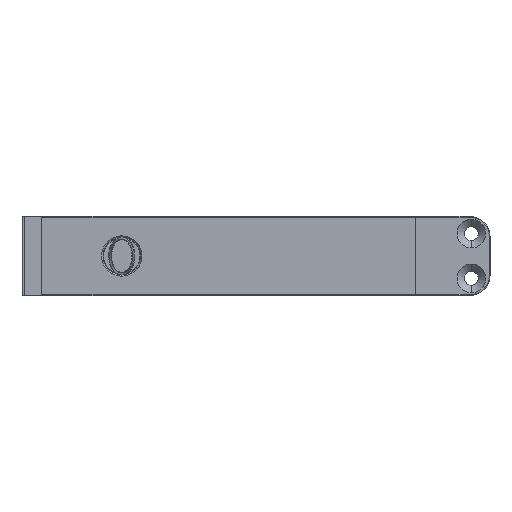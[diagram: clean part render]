
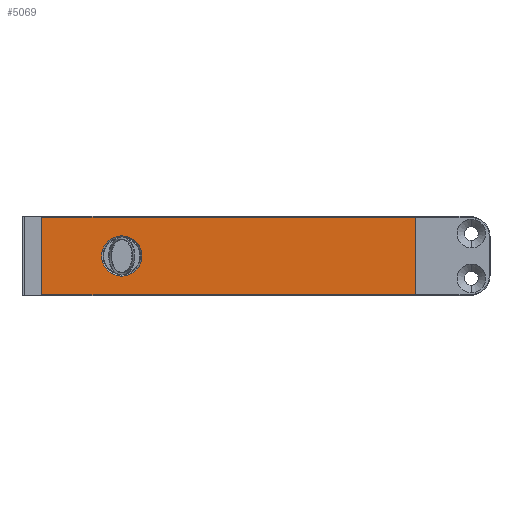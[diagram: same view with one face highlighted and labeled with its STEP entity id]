
A CAD part, front view. The second image highlights one B-rep face of the part: STEP entity #5069.
In plain terms, the highlighted planar face has unit normal (0, -1, 0).
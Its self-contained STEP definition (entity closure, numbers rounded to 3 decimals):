
#172 = CARTESIAN_POINT ( 'NONE',  ( -0.1, -19., -15.517 ) ) ;
#219 = CARTESIAN_POINT ( 'NONE',  ( 32., -19., 8.1 ) ) ;
#1121 = ORIENTED_EDGE ( 'NONE', *, *, #3320, .F. ) ;
#1370 = VECTOR ( 'NONE', #6865, 1000. ) ;
#1372 = EDGE_CURVE ( 'NONE', #11556, #9624, #12611, .T. ) ;
#1639 = CARTESIAN_POINT ( 'NONE',  ( 0., -19., 15.517 ) ) ;
#1711 = CIRCLE ( 'NONE', #6739, 8.1 ) ;
#1787 = ORIENTED_EDGE ( 'NONE', *, *, #3680, .T. ) ;
#2511 = LINE ( 'NONE', #6803, #1370 ) ;
#2614 = LINE ( 'NONE', #7183, #3274 ) ;
#2714 = EDGE_LOOP ( 'NONE', ( #1787, #4255, #1121, #10268 ) ) ;
#2862 = DIRECTION ( 'NONE',  ( 0., 1., 0. ) ) ;
#2931 = CARTESIAN_POINT ( 'NONE',  ( 32., -19., -8.1 ) ) ;
#3274 = VECTOR ( 'NONE', #3769, 1000. ) ;
#3320 = EDGE_CURVE ( 'NONE', #11556, #12786, #2511, .T. ) ;
#3680 = EDGE_CURVE ( 'NONE', #9624, #7643, #5618, .T. ) ;
#3769 = DIRECTION ( 'NONE',  ( 1., 0., 0. ) ) ;
#3936 = PLANE ( 'NONE',  #8626 ) ;
#4255 = ORIENTED_EDGE ( 'NONE', *, *, #12324, .T. ) ;
#4442 = VERTEX_POINT ( 'NONE', #2931 ) ;
#5055 = DIRECTION ( 'NONE',  ( 0., 0., 1. ) ) ;
#5069 = ADVANCED_FACE ( 'NONE', ( #6291, #8502 ), #3936, .F. ) ;
#5338 = CARTESIAN_POINT ( 'NONE',  ( -0.1, -19., 0. ) ) ;
#5341 = CIRCLE ( 'NONE', #7855, 8.1 ) ;
#5618 = LINE ( 'NONE', #5338, #6680 ) ;
#6291 = FACE_BOUND ( 'NONE', #12549, .T. ) ;
#6680 = VECTOR ( 'NONE', #12097, 1000. ) ;
#6739 = AXIS2_PLACEMENT_3D ( 'NONE', #11563, #7300, #10629 ) ;
#6803 = CARTESIAN_POINT ( 'NONE',  ( 150.1, -19., 0. ) ) ;
#6865 = DIRECTION ( 'NONE',  ( 0., 0., -1. ) ) ;
#6954 = VERTEX_POINT ( 'NONE', #219 ) ;
#7183 = CARTESIAN_POINT ( 'NONE',  ( 150., -19., -15.517 ) ) ;
#7300 = DIRECTION ( 'NONE',  ( 0., 1., 0. ) ) ;
#7319 = ORIENTED_EDGE ( 'NONE', *, *, #9287, .T. ) ;
#7348 = DIRECTION ( 'NONE',  ( -1., 0., 0. ) ) ;
#7643 = VERTEX_POINT ( 'NONE', #172 ) ;
#7855 = AXIS2_PLACEMENT_3D ( 'NONE', #11597, #2862, #5055 ) ;
#8149 = EDGE_CURVE ( 'NONE', #6954, #4442, #5341, .T. ) ;
#8502 = FACE_OUTER_BOUND ( 'NONE', #2714, .T. ) ;
#8626 = AXIS2_PLACEMENT_3D ( 'NONE', #12905, #9521, #13701 ) ;
#9287 = EDGE_CURVE ( 'NONE', #4442, #6954, #1711, .T. ) ;
#9521 = DIRECTION ( 'NONE',  ( 0., 1., 0. ) ) ;
#9624 = VERTEX_POINT ( 'NONE', #12491 ) ;
#9857 = CARTESIAN_POINT ( 'NONE',  ( 150.1, -19., 15.517 ) ) ;
#10120 = CARTESIAN_POINT ( 'NONE',  ( 150.1, -19., -15.517 ) ) ;
#10268 = ORIENTED_EDGE ( 'NONE', *, *, #1372, .T. ) ;
#10629 = DIRECTION ( 'NONE',  ( 0., 0., 1. ) ) ;
#11556 = VERTEX_POINT ( 'NONE', #9857 ) ;
#11563 = CARTESIAN_POINT ( 'NONE',  ( 32., -19., 0. ) ) ;
#11597 = CARTESIAN_POINT ( 'NONE',  ( 32., -19., 0. ) ) ;
#12097 = DIRECTION ( 'NONE',  ( 0., 0., -1. ) ) ;
#12324 = EDGE_CURVE ( 'NONE', #7643, #12786, #2614, .T. ) ;
#12491 = CARTESIAN_POINT ( 'NONE',  ( -0.1, -19., 15.517 ) ) ;
#12549 = EDGE_LOOP ( 'NONE', ( #7319, #14177 ) ) ;
#12611 = LINE ( 'NONE', #1639, #13201 ) ;
#12786 = VERTEX_POINT ( 'NONE', #10120 ) ;
#12905 = CARTESIAN_POINT ( 'NONE',  ( 150., -19., 0. ) ) ;
#13201 = VECTOR ( 'NONE', #7348, 1000. ) ;
#13701 = DIRECTION ( 'NONE',  ( 0., 0., 1. ) ) ;
#14177 = ORIENTED_EDGE ( 'NONE', *, *, #8149, .T. ) ;
